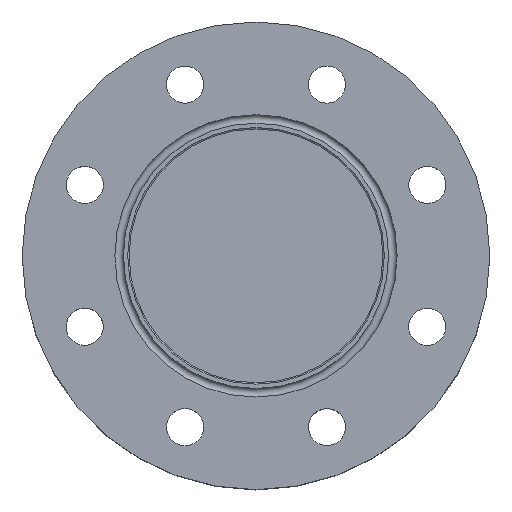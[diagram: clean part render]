
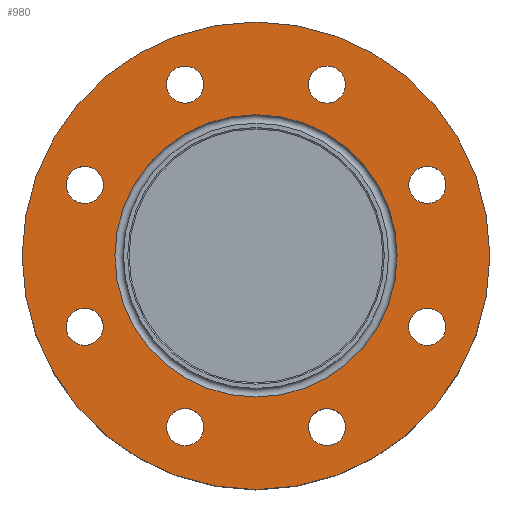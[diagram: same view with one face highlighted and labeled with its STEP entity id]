
A CAD part, top view. The second image highlights one B-rep face of the part: STEP entity #980.
In plain terms, the highlighted planar face has unit normal (0, 0, 1).
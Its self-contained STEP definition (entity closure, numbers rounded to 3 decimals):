
#51=FACE_BOUND('',#306,.T.);
#52=FACE_BOUND('',#307,.T.);
#53=FACE_BOUND('',#308,.T.);
#54=FACE_BOUND('',#309,.T.);
#55=FACE_BOUND('',#310,.T.);
#56=FACE_BOUND('',#311,.T.);
#57=FACE_BOUND('',#312,.T.);
#58=FACE_BOUND('',#313,.T.);
#59=FACE_BOUND('',#314,.T.);
#225=FACE_OUTER_BOUND('',#305,.T.);
#305=EDGE_LOOP('',(#830));
#306=EDGE_LOOP('',(#831));
#307=EDGE_LOOP('',(#832));
#308=EDGE_LOOP('',(#833));
#309=EDGE_LOOP('',(#834));
#310=EDGE_LOOP('',(#835));
#311=EDGE_LOOP('',(#836));
#312=EDGE_LOOP('',(#837));
#313=EDGE_LOOP('',(#838));
#314=EDGE_LOOP('',(#839));
#413=CIRCLE('',#1096,49.5);
#433=CIRCLE('',#1130,82.);
#434=CIRCLE('',#1131,6.5);
#435=CIRCLE('',#1132,6.5);
#436=CIRCLE('',#1133,6.5);
#437=CIRCLE('',#1134,6.5);
#438=CIRCLE('',#1135,6.5);
#439=CIRCLE('',#1136,6.5);
#440=CIRCLE('',#1137,6.5);
#441=CIRCLE('',#1138,6.5);
#503=VERTEX_POINT('',#1642);
#521=VERTEX_POINT('',#1706);
#522=VERTEX_POINT('',#1708);
#523=VERTEX_POINT('',#1710);
#524=VERTEX_POINT('',#1712);
#525=VERTEX_POINT('',#1714);
#526=VERTEX_POINT('',#1716);
#527=VERTEX_POINT('',#1718);
#528=VERTEX_POINT('',#1720);
#529=VERTEX_POINT('',#1722);
#604=EDGE_CURVE('',#503,#503,#413,.T.);
#635=EDGE_CURVE('',#521,#521,#433,.T.);
#636=EDGE_CURVE('',#522,#522,#434,.T.);
#637=EDGE_CURVE('',#523,#523,#435,.T.);
#638=EDGE_CURVE('',#524,#524,#436,.T.);
#639=EDGE_CURVE('',#525,#525,#437,.T.);
#640=EDGE_CURVE('',#526,#526,#438,.T.);
#641=EDGE_CURVE('',#527,#527,#439,.T.);
#642=EDGE_CURVE('',#528,#528,#440,.T.);
#643=EDGE_CURVE('',#529,#529,#441,.T.);
#830=ORIENTED_EDGE('',*,*,#635,.F.);
#831=ORIENTED_EDGE('',*,*,#636,.T.);
#832=ORIENTED_EDGE('',*,*,#637,.T.);
#833=ORIENTED_EDGE('',*,*,#638,.T.);
#834=ORIENTED_EDGE('',*,*,#639,.T.);
#835=ORIENTED_EDGE('',*,*,#640,.T.);
#836=ORIENTED_EDGE('',*,*,#641,.T.);
#837=ORIENTED_EDGE('',*,*,#642,.T.);
#838=ORIENTED_EDGE('',*,*,#604,.T.);
#839=ORIENTED_EDGE('',*,*,#643,.T.);
#946=PLANE('',#1129);
#980=ADVANCED_FACE('',(#225,#51,#52,#53,#54,#55,#56,#57,#58,#59),#946,.T.);
#1096=AXIS2_PLACEMENT_3D('',#1644,#1326,#1327);
#1129=AXIS2_PLACEMENT_3D('',#1705,#1403,#1404);
#1130=AXIS2_PLACEMENT_3D('',#1707,#1405,#1406);
#1131=AXIS2_PLACEMENT_3D('',#1709,#1407,#1408);
#1132=AXIS2_PLACEMENT_3D('',#1711,#1409,#1410);
#1133=AXIS2_PLACEMENT_3D('',#1713,#1411,#1412);
#1134=AXIS2_PLACEMENT_3D('',#1715,#1413,#1414);
#1135=AXIS2_PLACEMENT_3D('',#1717,#1415,#1416);
#1136=AXIS2_PLACEMENT_3D('',#1719,#1417,#1418);
#1137=AXIS2_PLACEMENT_3D('',#1721,#1419,#1420);
#1138=AXIS2_PLACEMENT_3D('',#1723,#1421,#1422);
#1326=DIRECTION('center_axis',(0.,0.,-1.));
#1327=DIRECTION('ref_axis',(1.,0.,0.));
#1403=DIRECTION('center_axis',(0.,0.,1.));
#1404=DIRECTION('ref_axis',(1.,0.,0.));
#1405=DIRECTION('center_axis',(0.,0.,-1.));
#1406=DIRECTION('ref_axis',(1.,0.,0.));
#1407=DIRECTION('center_axis',(0.,0.,-1.));
#1408=DIRECTION('ref_axis',(0.707,0.707,0.));
#1409=DIRECTION('center_axis',(0.,0.,-1.));
#1410=DIRECTION('ref_axis',(0.,1.,0.));
#1411=DIRECTION('center_axis',(0.,0.,-1.));
#1412=DIRECTION('ref_axis',(-0.707,0.707,0.));
#1413=DIRECTION('center_axis',(0.,0.,-1.));
#1414=DIRECTION('ref_axis',(-0.707,-0.707,0.));
#1415=DIRECTION('center_axis',(0.,0.,-1.));
#1416=DIRECTION('ref_axis',(0.,-1.,0.));
#1417=DIRECTION('center_axis',(0.,0.,-1.));
#1418=DIRECTION('ref_axis',(0.707,-0.707,0.));
#1419=DIRECTION('center_axis',(0.,0.,-1.));
#1420=DIRECTION('ref_axis',(1.,0.,0.));
#1421=DIRECTION('center_axis',(0.,0.,-1.));
#1422=DIRECTION('ref_axis',(-1.,0.,0.));
#1642=CARTESIAN_POINT('',(0.,-49.5,0.));
#1644=CARTESIAN_POINT('Origin',(0.,0.,0.));
#1705=CARTESIAN_POINT('Origin',(0.,82.,0.));
#1706=CARTESIAN_POINT('',(0.,-82.,0.));
#1707=CARTESIAN_POINT('Origin',(0.,0.,0.));
#1708=CARTESIAN_POINT('',(55.456,20.278,0.));
#1709=CARTESIAN_POINT('Origin',(60.052,24.874,0.));
#1710=CARTESIAN_POINT('',(24.874,53.552,0.));
#1711=CARTESIAN_POINT('Origin',(24.874,60.052,0.));
#1712=CARTESIAN_POINT('',(-20.278,55.456,0.));
#1713=CARTESIAN_POINT('Origin',(-24.874,60.052,0.));
#1714=CARTESIAN_POINT('',(-55.456,-20.278,0.));
#1715=CARTESIAN_POINT('Origin',(-60.052,-24.874,0.));
#1716=CARTESIAN_POINT('',(-24.874,-53.552,0.));
#1717=CARTESIAN_POINT('Origin',(-24.874,-60.052,0.));
#1718=CARTESIAN_POINT('',(20.278,-55.456,0.));
#1719=CARTESIAN_POINT('Origin',(24.874,-60.052,0.));
#1720=CARTESIAN_POINT('',(53.552,-24.874,0.));
#1721=CARTESIAN_POINT('Origin',(60.052,-24.874,0.));
#1722=CARTESIAN_POINT('',(-53.552,24.874,0.));
#1723=CARTESIAN_POINT('Origin',(-60.052,24.874,0.));
